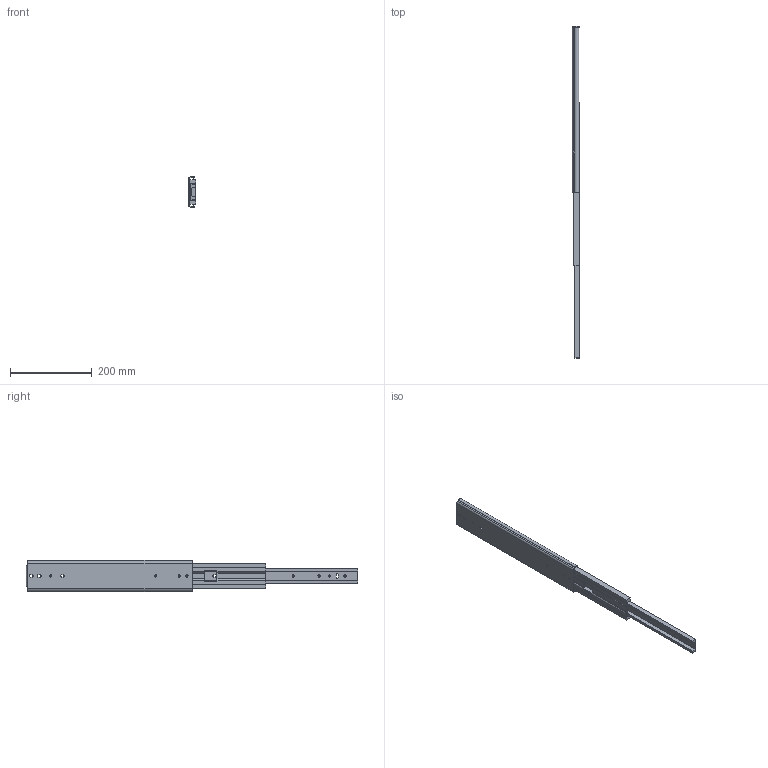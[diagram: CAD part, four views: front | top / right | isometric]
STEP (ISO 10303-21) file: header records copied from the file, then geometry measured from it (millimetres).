
FILE_DESCRIPTION(/* description */ ('Unknown'),/* implementation_level */ '2;1');
FILE_NAME(/* name */ '76J01-16 open',/* time_stamp */ '2024-07-26T15:29:25+08:00',/* author */ ('Unknown'),/* organization */ ('Unknown'),/* preprocessor_version */ 'ST-DEVELOPER v18.104',/* originating_system */ 'Solid Edge',/* authorisation */ 'Unknown');
FILE_SCHEMA (('AUTOMOTIVE_DESIGN {1 0 10303 214 3 1 1}'));
Length unit declared in the file: millimetre
Products named in the file (4): 76J01-16 open; 76J01 16 inch 內_0; 76J01 16 吋中_; 76J01 16 嬪
Assembly tree (3 placements, depth 2):
  76J01-16 open
    76J01 16 inch 內_0
    76J01 16 吋中_
    76J01 16 嬪
Bounding box: 19.3 x 812.1 x 76.76 mm (x, y, z)
Volume: 316294.6 mm3; surface area: 198252 mm2
Topology: 3 solids, 3 shells, 163 faces, 491 edges, 330 vertices
Faces by surface type: plane 92, cylinder 71
Full cylindrical faces by diameter (mm): 5.2 x8
Entity records: 5969 total; most frequent: CARTESIAN_POINT 967, DIRECTION 951, ORIENTED_EDGE 950, EDGE_CURVE 475, LINE 331, VECTOR 331, VERTEX_POINT 322, AXIS2_PLACEMENT_3D 310
